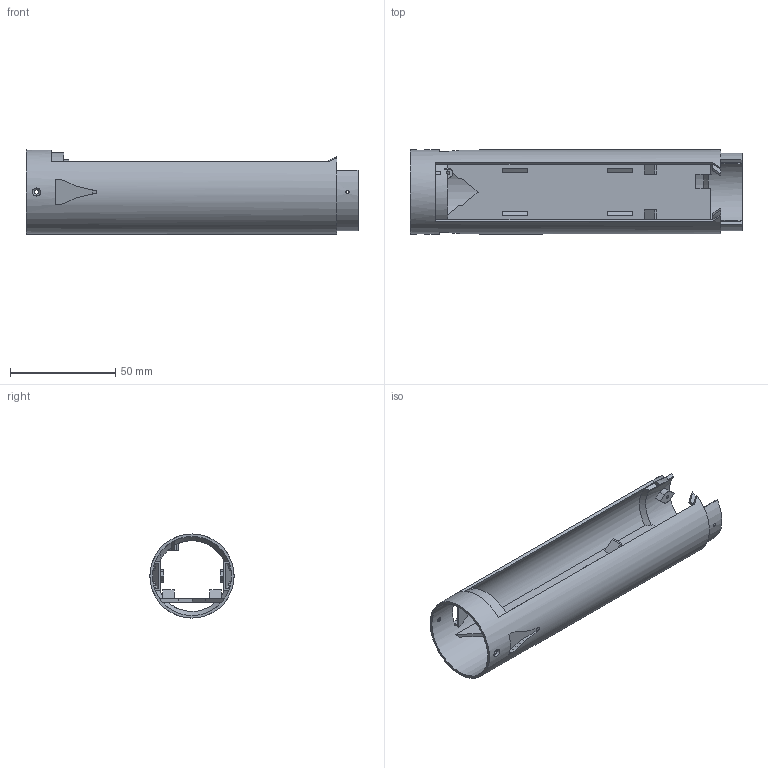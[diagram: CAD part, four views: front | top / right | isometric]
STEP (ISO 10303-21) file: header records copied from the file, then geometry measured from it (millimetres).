
FILE_DESCRIPTION(('Open CASCADE Model'),'2;1');
FILE_NAME('Open CASCADE Shape Model','2026-10-07T11:47:16',('Author'),( 'Open CASCADE'),'Open CASCADE STEP processor 7.9','Open CASCADE 7.9' ,'Unknown');
FILE_SCHEMA(('AUTOMOTIVE_DESIGN { 1 0 10303 214 1 1 1 1 }'));
Length unit declared in the file: millimetre
Products named in the file (1): Open CASCADE STEP translator 7.9 11
Bounding box: 158 x 40 x 40 mm (x, y, z)
Volume: 25397.4 mm3; surface area: 38177.7 mm2
Topology: 1 solids, 1 shells, 211 faces, 629 edges, 416 vertices
Faces by surface type: plane 139, bspline 38, cylinder 27, cone 7
Full cylindrical faces by diameter (mm): 1.6 x3, 2.2 x2, 37.6 x1, 40 x1
Entity records: 18768 total; most frequent: CARTESIAN_POINT 7868, DIRECTION 1498, ORIENTED_EDGE 1258, PCURVE 1258, DEFINITIONAL_REPRESENTATION 1258, LINE 849, VECTOR 849, B_SPLINE_CURVE_WITH_KNOTS 816
